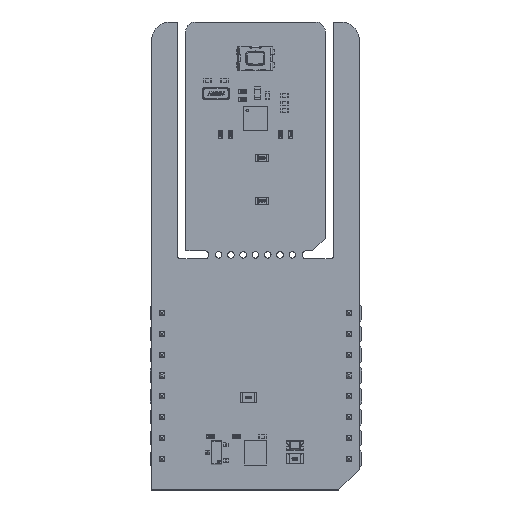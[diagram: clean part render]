
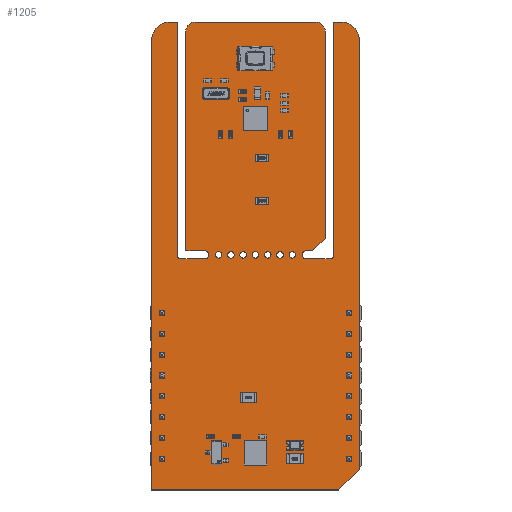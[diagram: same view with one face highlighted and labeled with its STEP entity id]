
A CAD part, top view. The second image highlights one B-rep face of the part: STEP entity #1205.
In plain terms, the highlighted planar face has unit normal (0, 0, 1).
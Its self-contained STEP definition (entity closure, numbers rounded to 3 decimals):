
#168 = VERTEX_POINT('',#169);
#169 = CARTESIAN_POINT('',(1.905,24.8,1.59));
#175 = EDGE_CURVE('',#168,#176,#178,.T.);
#176 = VERTEX_POINT('',#177);
#177 = CARTESIAN_POINT('',(2.305,24.4,1.59));
#178 = CIRCLE('',#179,0.399);
#179 = AXIS2_PLACEMENT_3D('',#180,#181,#182);
#180 = CARTESIAN_POINT('',(2.304,24.799,1.59));
#181 = DIRECTION('',(0.,0.,1.));
#182 = DIRECTION('',(-1.,0.001,0.));
#208 = EDGE_CURVE('',#176,#209,#211,.T.);
#209 = VERTEX_POINT('',#210);
#210 = CARTESIAN_POINT('',(5.23,24.4,1.59));
#211 = LINE('',#212,#213);
#212 = CARTESIAN_POINT('',(2.305,24.4,1.59));
#213 = VECTOR('',#214,1.);
#214 = DIRECTION('',(1.,0.,0.));
#239 = EDGE_CURVE('',#209,#240,#242,.T.);
#240 = VERTEX_POINT('',#241);
#241 = CARTESIAN_POINT('',(5.23,25.4,1.59));
#242 = CIRCLE('',#243,0.5);
#243 = AXIS2_PLACEMENT_3D('',#244,#245,#246);
#244 = CARTESIAN_POINT('',(5.23,24.9,1.59));
#245 = DIRECTION('',(0.,0.,1.));
#246 = DIRECTION('',(-0.,-1.,0.));
#272 = EDGE_CURVE('',#240,#273,#275,.T.);
#273 = VERTEX_POINT('',#274);
#274 = CARTESIAN_POINT('',(2.921,25.4,1.59));
#275 = LINE('',#276,#277);
#276 = CARTESIAN_POINT('',(5.23,25.4,1.59));
#277 = VECTOR('',#278,1.);
#278 = DIRECTION('',(-1.,0.,0.));
#303 = EDGE_CURVE('',#273,#304,#306,.T.);
#304 = VERTEX_POINT('',#305);
#305 = CARTESIAN_POINT('',(2.921,52.197,1.59));
#306 = LINE('',#307,#308);
#307 = CARTESIAN_POINT('',(2.921,25.4,1.59));
#308 = VECTOR('',#309,1.);
#309 = DIRECTION('',(0.,1.,0.));
#334 = EDGE_CURVE('',#304,#335,#337,.T.);
#335 = VERTEX_POINT('',#336);
#336 = CARTESIAN_POINT('',(4.064,53.34,1.59));
#337 = CIRCLE('',#338,1.144);
#338 = AXIS2_PLACEMENT_3D('',#339,#340,#341);
#339 = CARTESIAN_POINT('',(4.065,52.196,1.59));
#340 = DIRECTION('',(0.,0.,-1.));
#341 = DIRECTION('',(-1.,0.001,0.));
#367 = EDGE_CURVE('',#335,#368,#370,.T.);
#368 = VERTEX_POINT('',#369);
#369 = CARTESIAN_POINT('',(18.796,53.34,1.59));
#370 = LINE('',#371,#372);
#371 = CARTESIAN_POINT('',(4.064,53.34,1.59));
#372 = VECTOR('',#373,1.);
#373 = DIRECTION('',(1.,0.,0.));
#398 = EDGE_CURVE('',#368,#399,#401,.T.);
#399 = VERTEX_POINT('',#400);
#400 = CARTESIAN_POINT('',(19.939,52.197,1.59));
#401 = CIRCLE('',#402,1.144);
#402 = AXIS2_PLACEMENT_3D('',#403,#404,#405);
#403 = CARTESIAN_POINT('',(18.795,52.196,1.59));
#404 = DIRECTION('',(0.,0.,-1.));
#405 = DIRECTION('',(0.001,1.,0.));
#431 = EDGE_CURVE('',#399,#432,#434,.T.);
#432 = VERTEX_POINT('',#433);
#433 = CARTESIAN_POINT('',(19.939,26.924,1.59));
#434 = LINE('',#435,#436);
#435 = CARTESIAN_POINT('',(19.939,52.197,1.59));
#436 = VECTOR('',#437,1.);
#437 = DIRECTION('',(0.,-1.,0.));
#462 = EDGE_CURVE('',#432,#463,#465,.T.);
#463 = VERTEX_POINT('',#464);
#464 = CARTESIAN_POINT('',(18.415,25.4,1.59));
#465 = LINE('',#466,#467);
#466 = CARTESIAN_POINT('',(19.939,26.924,1.59));
#467 = VECTOR('',#468,1.);
#468 = DIRECTION('',(-0.707,-0.707,0.));
#493 = EDGE_CURVE('',#463,#494,#496,.T.);
#494 = VERTEX_POINT('',#495);
#495 = CARTESIAN_POINT('',(17.63,25.4,1.59));
#496 = LINE('',#497,#498);
#497 = CARTESIAN_POINT('',(18.415,25.4,1.59));
#498 = VECTOR('',#499,1.);
#499 = DIRECTION('',(-1.,0.,0.));
#524 = EDGE_CURVE('',#494,#525,#527,.T.);
#525 = VERTEX_POINT('',#526);
#526 = CARTESIAN_POINT('',(17.63,24.4,1.59));
#527 = CIRCLE('',#528,0.5);
#528 = AXIS2_PLACEMENT_3D('',#529,#530,#531);
#529 = CARTESIAN_POINT('',(17.63,24.9,1.59));
#530 = DIRECTION('',(0.,-0.,1.));
#531 = DIRECTION('',(0.,1.,0.));
#557 = EDGE_CURVE('',#525,#558,#560,.T.);
#558 = VERTEX_POINT('',#559);
#559 = CARTESIAN_POINT('',(20.555,24.4,1.59));
#560 = LINE('',#561,#562);
#561 = CARTESIAN_POINT('',(17.63,24.4,1.59));
#562 = VECTOR('',#563,1.);
#563 = DIRECTION('',(1.,0.,0.));
#588 = EDGE_CURVE('',#558,#589,#591,.T.);
#589 = VERTEX_POINT('',#590);
#590 = CARTESIAN_POINT('',(20.955,24.8,1.59));
#591 = CIRCLE('',#592,0.399);
#592 = AXIS2_PLACEMENT_3D('',#593,#594,#595);
#593 = CARTESIAN_POINT('',(20.556,24.799,1.59));
#594 = DIRECTION('',(0.,0.,1.));
#595 = DIRECTION('',(-0.001,-1.,0.));
#621 = EDGE_CURVE('',#589,#622,#624,.T.);
#622 = VERTEX_POINT('',#623);
#623 = CARTESIAN_POINT('',(20.955,53.34,1.59));
#624 = LINE('',#625,#626);
#625 = CARTESIAN_POINT('',(20.955,24.8,1.59));
#626 = VECTOR('',#627,1.);
#627 = DIRECTION('',(0.,1.,0.));
#652 = EDGE_CURVE('',#622,#653,#655,.T.);
#653 = VERTEX_POINT('',#654);
#654 = CARTESIAN_POINT('',(21.844,53.34,1.59));
#655 = LINE('',#656,#657);
#656 = CARTESIAN_POINT('',(20.955,53.34,1.59));
#657 = VECTOR('',#658,1.);
#658 = DIRECTION('',(1.,0.,0.));
#683 = EDGE_CURVE('',#653,#684,#686,.T.);
#684 = VERTEX_POINT('',#685);
#685 = CARTESIAN_POINT('',(24.13,51.054,1.59));
#686 = CIRCLE('',#687,2.288);
#687 = AXIS2_PLACEMENT_3D('',#688,#689,#690);
#688 = CARTESIAN_POINT('',(21.842,51.052,1.59));
#689 = DIRECTION('',(0.,0.,-1.));
#690 = DIRECTION('',(0.001,1.,0.));
#716 = EDGE_CURVE('',#684,#717,#719,.T.);
#717 = VERTEX_POINT('',#718);
#718 = CARTESIAN_POINT('',(24.13,-1.27,1.59));
#719 = LINE('',#720,#721);
#720 = CARTESIAN_POINT('',(24.13,51.054,1.59));
#721 = VECTOR('',#722,1.);
#722 = DIRECTION('',(0.,-1.,0.));
#747 = EDGE_CURVE('',#717,#748,#750,.T.);
#748 = VERTEX_POINT('',#749);
#749 = CARTESIAN_POINT('',(21.59,-3.81,1.59));
#750 = LINE('',#751,#752);
#751 = CARTESIAN_POINT('',(24.13,-1.27,1.59));
#752 = VECTOR('',#753,1.);
#753 = DIRECTION('',(-0.707,-0.707,0.));
#778 = EDGE_CURVE('',#748,#779,#781,.T.);
#779 = VERTEX_POINT('',#780);
#780 = CARTESIAN_POINT('',(-1.27,-3.81,1.59));
#781 = LINE('',#782,#783);
#782 = CARTESIAN_POINT('',(21.59,-3.81,1.59));
#783 = VECTOR('',#784,1.);
#784 = DIRECTION('',(-1.,0.,0.));
#809 = EDGE_CURVE('',#779,#810,#812,.T.);
#810 = VERTEX_POINT('',#811);
#811 = CARTESIAN_POINT('',(-1.27,51.054,1.59));
#812 = LINE('',#813,#814);
#813 = CARTESIAN_POINT('',(-1.27,-3.81,1.59));
#814 = VECTOR('',#815,1.);
#815 = DIRECTION('',(0.,1.,0.));
#840 = EDGE_CURVE('',#810,#841,#843,.T.);
#841 = VERTEX_POINT('',#842);
#842 = CARTESIAN_POINT('',(1.016,53.34,1.59));
#843 = CIRCLE('',#844,2.288);
#844 = AXIS2_PLACEMENT_3D('',#845,#846,#847);
#845 = CARTESIAN_POINT('',(1.018,51.052,1.59));
#846 = DIRECTION('',(0.,0.,-1.));
#847 = DIRECTION('',(-1.,0.001,0.));
#873 = EDGE_CURVE('',#841,#874,#876,.T.);
#874 = VERTEX_POINT('',#875);
#875 = CARTESIAN_POINT('',(1.905,53.34,1.59));
#876 = LINE('',#877,#878);
#877 = CARTESIAN_POINT('',(1.016,53.34,1.59));
#878 = VECTOR('',#879,1.);
#879 = DIRECTION('',(1.,0.,0.));
#904 = EDGE_CURVE('',#874,#168,#905,.T.);
#905 = LINE('',#906,#907);
#906 = CARTESIAN_POINT('',(1.905,53.34,1.59));
#907 = VECTOR('',#908,1.);
#908 = DIRECTION('',(0.,-1.,0.));
#928 = VERTEX_POINT('',#929);
#929 = CARTESIAN_POINT('',(7.33,24.9,1.59));
#935 = EDGE_CURVE('',#928,#928,#936,.T.);
#936 = CIRCLE('',#937,0.4);
#937 = AXIS2_PLACEMENT_3D('',#938,#939,#940);
#938 = CARTESIAN_POINT('',(6.93,24.9,1.59));
#939 = DIRECTION('',(0.,0.,1.));
#940 = DIRECTION('',(1.,0.,-0.));
#961 = VERTEX_POINT('',#962);
#962 = CARTESIAN_POINT('',(8.83,24.9,1.59));
#968 = EDGE_CURVE('',#961,#961,#969,.T.);
#969 = CIRCLE('',#970,0.4);
#970 = AXIS2_PLACEMENT_3D('',#971,#972,#973);
#971 = CARTESIAN_POINT('',(8.43,24.9,1.59));
#972 = DIRECTION('',(0.,0.,1.));
#973 = DIRECTION('',(1.,0.,-0.));
#994 = VERTEX_POINT('',#995);
#995 = CARTESIAN_POINT('',(10.33,24.9,1.59));
#1001 = EDGE_CURVE('',#994,#994,#1002,.T.);
#1002 = CIRCLE('',#1003,0.4);
#1003 = AXIS2_PLACEMENT_3D('',#1004,#1005,#1006);
#1004 = CARTESIAN_POINT('',(9.93,24.9,1.59));
#1005 = DIRECTION('',(0.,0.,1.));
#1006 = DIRECTION('',(1.,0.,-0.));
#1027 = VERTEX_POINT('',#1028);
#1028 = CARTESIAN_POINT('',(14.83,24.9,1.59));
#1034 = EDGE_CURVE('',#1027,#1027,#1035,.T.);
#1035 = CIRCLE('',#1036,0.4);
#1036 = AXIS2_PLACEMENT_3D('',#1037,#1038,#1039);
#1037 = CARTESIAN_POINT('',(14.43,24.9,1.59));
#1038 = DIRECTION('',(0.,0.,1.));
#1039 = DIRECTION('',(1.,0.,-0.));
#1060 = VERTEX_POINT('',#1061);
#1061 = CARTESIAN_POINT('',(16.33,24.9,1.59));
#1067 = EDGE_CURVE('',#1060,#1060,#1068,.T.);
#1068 = CIRCLE('',#1069,0.4);
#1069 = AXIS2_PLACEMENT_3D('',#1070,#1071,#1072);
#1070 = CARTESIAN_POINT('',(15.93,24.9,1.59));
#1071 = DIRECTION('',(0.,0.,1.));
#1072 = DIRECTION('',(1.,0.,-0.));
#1093 = VERTEX_POINT('',#1094);
#1094 = CARTESIAN_POINT('',(11.83,24.9,1.59));
#1100 = EDGE_CURVE('',#1093,#1093,#1101,.T.);
#1101 = CIRCLE('',#1102,0.4);
#1102 = AXIS2_PLACEMENT_3D('',#1103,#1104,#1105);
#1103 = CARTESIAN_POINT('',(11.43,24.9,1.59));
#1104 = DIRECTION('',(0.,0.,1.));
#1105 = DIRECTION('',(1.,0.,-0.));
#1126 = VERTEX_POINT('',#1127);
#1127 = CARTESIAN_POINT('',(13.33,24.9,1.59));
#1133 = EDGE_CURVE('',#1126,#1126,#1134,.T.);
#1134 = CIRCLE('',#1135,0.4);
#1135 = AXIS2_PLACEMENT_3D('',#1136,#1137,#1138);
#1136 = CARTESIAN_POINT('',(12.93,24.9,1.59));
#1137 = DIRECTION('',(0.,0.,1.));
#1138 = DIRECTION('',(1.,0.,-0.));
#1205 = ADVANCED_FACE('',(#1206,#1232,#1235,#1238,#1241,#1244,#1247,
    #1250),#1253,.F.);
#1206 = FACE_BOUND('',#1207,.F.);
#1207 = EDGE_LOOP('',(#1208,#1209,#1210,#1211,#1212,#1213,#1214,#1215,
    #1216,#1217,#1218,#1219,#1220,#1221,#1222,#1223,#1224,#1225,#1226,
    #1227,#1228,#1229,#1230,#1231));
#1208 = ORIENTED_EDGE('',*,*,#175,.T.);
#1209 = ORIENTED_EDGE('',*,*,#208,.T.);
#1210 = ORIENTED_EDGE('',*,*,#239,.T.);
#1211 = ORIENTED_EDGE('',*,*,#272,.T.);
#1212 = ORIENTED_EDGE('',*,*,#303,.T.);
#1213 = ORIENTED_EDGE('',*,*,#334,.T.);
#1214 = ORIENTED_EDGE('',*,*,#367,.T.);
#1215 = ORIENTED_EDGE('',*,*,#398,.T.);
#1216 = ORIENTED_EDGE('',*,*,#431,.T.);
#1217 = ORIENTED_EDGE('',*,*,#462,.T.);
#1218 = ORIENTED_EDGE('',*,*,#493,.T.);
#1219 = ORIENTED_EDGE('',*,*,#524,.T.);
#1220 = ORIENTED_EDGE('',*,*,#557,.T.);
#1221 = ORIENTED_EDGE('',*,*,#588,.T.);
#1222 = ORIENTED_EDGE('',*,*,#621,.T.);
#1223 = ORIENTED_EDGE('',*,*,#652,.T.);
#1224 = ORIENTED_EDGE('',*,*,#683,.T.);
#1225 = ORIENTED_EDGE('',*,*,#716,.T.);
#1226 = ORIENTED_EDGE('',*,*,#747,.T.);
#1227 = ORIENTED_EDGE('',*,*,#778,.T.);
#1228 = ORIENTED_EDGE('',*,*,#809,.T.);
#1229 = ORIENTED_EDGE('',*,*,#840,.T.);
#1230 = ORIENTED_EDGE('',*,*,#873,.T.);
#1231 = ORIENTED_EDGE('',*,*,#904,.T.);
#1232 = FACE_BOUND('',#1233,.F.);
#1233 = EDGE_LOOP('',(#1234));
#1234 = ORIENTED_EDGE('',*,*,#935,.T.);
#1235 = FACE_BOUND('',#1236,.F.);
#1236 = EDGE_LOOP('',(#1237));
#1237 = ORIENTED_EDGE('',*,*,#968,.T.);
#1238 = FACE_BOUND('',#1239,.F.);
#1239 = EDGE_LOOP('',(#1240));
#1240 = ORIENTED_EDGE('',*,*,#1001,.T.);
#1241 = FACE_BOUND('',#1242,.F.);
#1242 = EDGE_LOOP('',(#1243));
#1243 = ORIENTED_EDGE('',*,*,#1034,.T.);
#1244 = FACE_BOUND('',#1245,.F.);
#1245 = EDGE_LOOP('',(#1246));
#1246 = ORIENTED_EDGE('',*,*,#1067,.T.);
#1247 = FACE_BOUND('',#1248,.F.);
#1248 = EDGE_LOOP('',(#1249));
#1249 = ORIENTED_EDGE('',*,*,#1100,.T.);
#1250 = FACE_BOUND('',#1251,.F.);
#1251 = EDGE_LOOP('',(#1252));
#1252 = ORIENTED_EDGE('',*,*,#1133,.T.);
#1253 = PLANE('',#1254);
#1254 = AXIS2_PLACEMENT_3D('',#1255,#1256,#1257);
#1255 = CARTESIAN_POINT('',(11.331,30.13,1.59));
#1256 = DIRECTION('',(-0.,-0.,-1.));
#1257 = DIRECTION('',(-1.,0.,0.));
